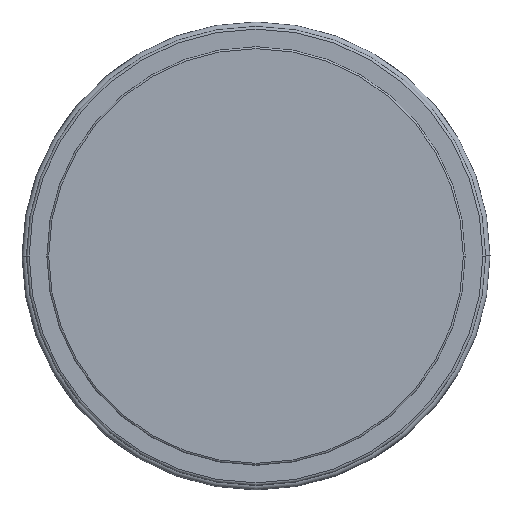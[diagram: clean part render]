
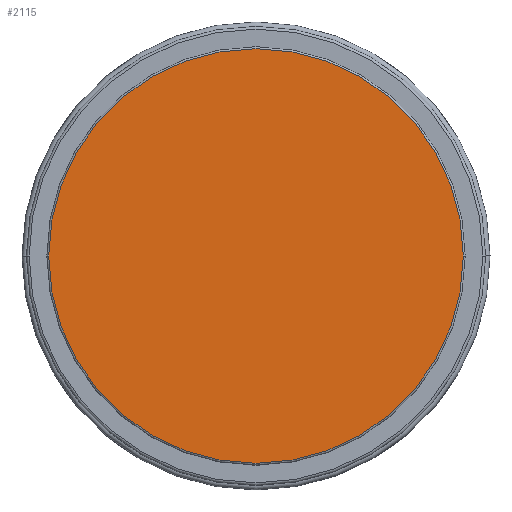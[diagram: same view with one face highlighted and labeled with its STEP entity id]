
A CAD part, front view. The second image highlights one B-rep face of the part: STEP entity #2115.
In plain terms, the highlighted planar face has unit normal (0, -1, 0).
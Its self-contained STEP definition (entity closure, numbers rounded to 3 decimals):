
#114 = CARTESIAN_POINT ( 'NONE',  ( 0., -1.05, 0. ) ) ;
#595 = FACE_OUTER_BOUND ( 'NONE', #2129, .T. ) ;
#635 = ORIENTED_EDGE ( 'NONE', *, *, #2280, .T. ) ;
#933 = ORIENTED_EDGE ( 'NONE', *, *, #1109, .T. ) ;
#1109 = EDGE_CURVE ( 'NONE', #1943, #1486, #2206, .T. ) ;
#1162 = CARTESIAN_POINT ( 'NONE',  ( -23.029, -1.05, 0. ) ) ;
#1307 = DIRECTION ( 'NONE',  ( 0., -1., 0. ) ) ;
#1448 = DIRECTION ( 'NONE',  ( 0., -1., 0. ) ) ;
#1456 = CIRCLE ( 'NONE', #2556, 23.029 ) ;
#1475 = DIRECTION ( 'NONE',  ( 0., -1., 0. ) ) ;
#1486 = VERTEX_POINT ( 'NONE', #1583 ) ;
#1583 = CARTESIAN_POINT ( 'NONE',  ( 23.029, -1.05, 0. ) ) ;
#1690 = AXIS2_PLACEMENT_3D ( 'NONE', #2061, #1448, #2071 ) ;
#1712 = DIRECTION ( 'NONE',  ( -1., 0., 0. ) ) ;
#1930 = AXIS2_PLACEMENT_3D ( 'NONE', #114, #1475, #2088 ) ;
#1943 = VERTEX_POINT ( 'NONE', #1162 ) ;
#2061 = CARTESIAN_POINT ( 'NONE',  ( 0., -1.05, 0. ) ) ;
#2071 = DIRECTION ( 'NONE',  ( -1., 0., 0. ) ) ;
#2088 = DIRECTION ( 'NONE',  ( -1., 0., 0. ) ) ;
#2115 = ADVANCED_FACE ( 'NONE', ( #595 ), #2473, .T. ) ;
#2129 = EDGE_LOOP ( 'NONE', ( #933, #635 ) ) ;
#2206 = CIRCLE ( 'NONE', #1930, 23.029 ) ;
#2280 = EDGE_CURVE ( 'NONE', #1486, #1943, #1456, .T. ) ;
#2321 = CARTESIAN_POINT ( 'NONE',  ( 0., -1.05, 0. ) ) ;
#2473 = PLANE ( 'NONE',  #1690 ) ;
#2556 = AXIS2_PLACEMENT_3D ( 'NONE', #2321, #1307, #1712 ) ;
